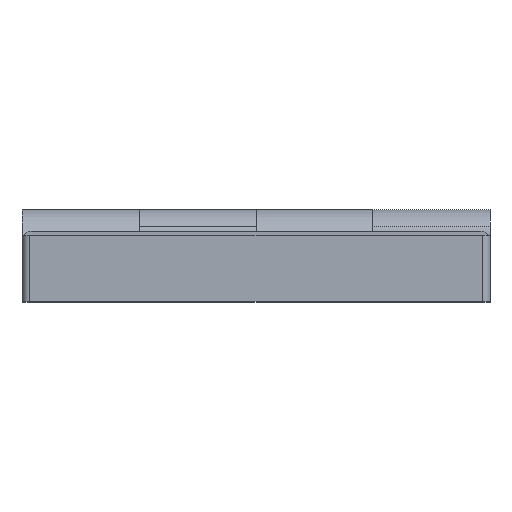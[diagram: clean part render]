
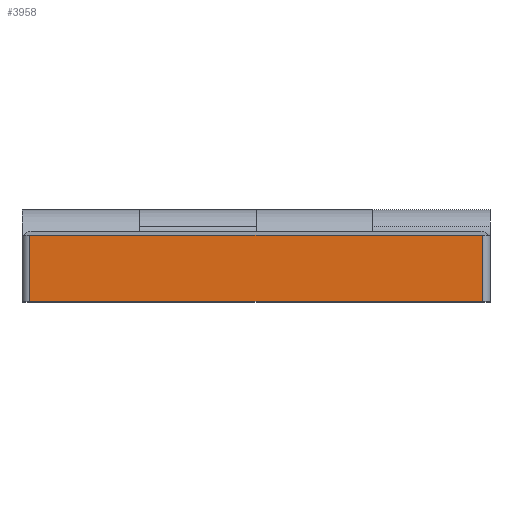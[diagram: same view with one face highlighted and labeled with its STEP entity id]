
A CAD part, top view. The second image highlights one B-rep face of the part: STEP entity #3958.
In plain terms, the highlighted planar face has unit normal (0, 0, 1).
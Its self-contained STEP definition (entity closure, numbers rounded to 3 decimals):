
#162 = CARTESIAN_POINT ( 'NONE',  ( 30., 2.2, 31. ) ) ;
#283 = VERTEX_POINT ( 'NONE', #1603 ) ;
#661 = ORIENTED_EDGE ( 'NONE', *, *, #4091, .T. ) ;
#837 = DIRECTION ( 'NONE',  ( 0., -1., 0. ) ) ;
#892 = EDGE_CURVE ( 'NONE', #5597, #283, #7116, .T. ) ;
#1528 = EDGE_LOOP ( 'NONE', ( #661, #4393, #3528, #3437 ) ) ;
#1603 = CARTESIAN_POINT ( 'NONE',  ( -29., -6.3, 31. ) ) ;
#2256 = CARTESIAN_POINT ( 'NONE',  ( 29., 2.2, 31. ) ) ;
#2506 = EDGE_CURVE ( 'NONE', #5222, #283, #7274, .T. ) ;
#2656 = VECTOR ( 'NONE', #837, 1000. ) ;
#2691 = DIRECTION ( 'NONE',  ( 0., 1., 0. ) ) ;
#2975 = VERTEX_POINT ( 'NONE', #2256 ) ;
#3008 = DIRECTION ( 'NONE',  ( 0., 1., 0. ) ) ;
#3437 = ORIENTED_EDGE ( 'NONE', *, *, #7491, .T. ) ;
#3528 = ORIENTED_EDGE ( 'NONE', *, *, #2506, .F. ) ;
#3907 = LINE ( 'NONE', #8858, #6257 ) ;
#3958 = ADVANCED_FACE ( 'NONE', ( #7242 ), #6555, .F. ) ;
#3972 = VECTOR ( 'NONE', #5974, 1000. ) ;
#4091 = EDGE_CURVE ( 'NONE', #2975, #5597, #5490, .T. ) ;
#4256 = CARTESIAN_POINT ( 'NONE',  ( -29., 2.2, 31. ) ) ;
#4393 = ORIENTED_EDGE ( 'NONE', *, *, #892, .T. ) ;
#4811 = CARTESIAN_POINT ( 'NONE',  ( 30., 2.2, 31. ) ) ;
#5222 = VERTEX_POINT ( 'NONE', #5939 ) ;
#5400 = AXIS2_PLACEMENT_3D ( 'NONE', #162, #5720, #3008 ) ;
#5490 = LINE ( 'NONE', #4811, #8345 ) ;
#5597 = VERTEX_POINT ( 'NONE', #6308 ) ;
#5720 = DIRECTION ( 'NONE',  ( 0., 0., -1. ) ) ;
#5939 = CARTESIAN_POINT ( 'NONE',  ( 29., -6.3, 31. ) ) ;
#5974 = DIRECTION ( 'NONE',  ( -1., 0., 0. ) ) ;
#6257 = VECTOR ( 'NONE', #2691, 1000. ) ;
#6308 = CARTESIAN_POINT ( 'NONE',  ( -29., 2.2, 31. ) ) ;
#6555 = PLANE ( 'NONE',  #5400 ) ;
#7116 = LINE ( 'NONE', #4256, #2656 ) ;
#7242 = FACE_OUTER_BOUND ( 'NONE', #1528, .T. ) ;
#7274 = LINE ( 'NONE', #7962, #3972 ) ;
#7482 = DIRECTION ( 'NONE',  ( -1., 0., 0. ) ) ;
#7491 = EDGE_CURVE ( 'NONE', #5222, #2975, #3907, .T. ) ;
#7962 = CARTESIAN_POINT ( 'NONE',  ( 30., -6.3, 31. ) ) ;
#8345 = VECTOR ( 'NONE', #7482, 1000. ) ;
#8858 = CARTESIAN_POINT ( 'NONE',  ( 29., 2.2, 31. ) ) ;
